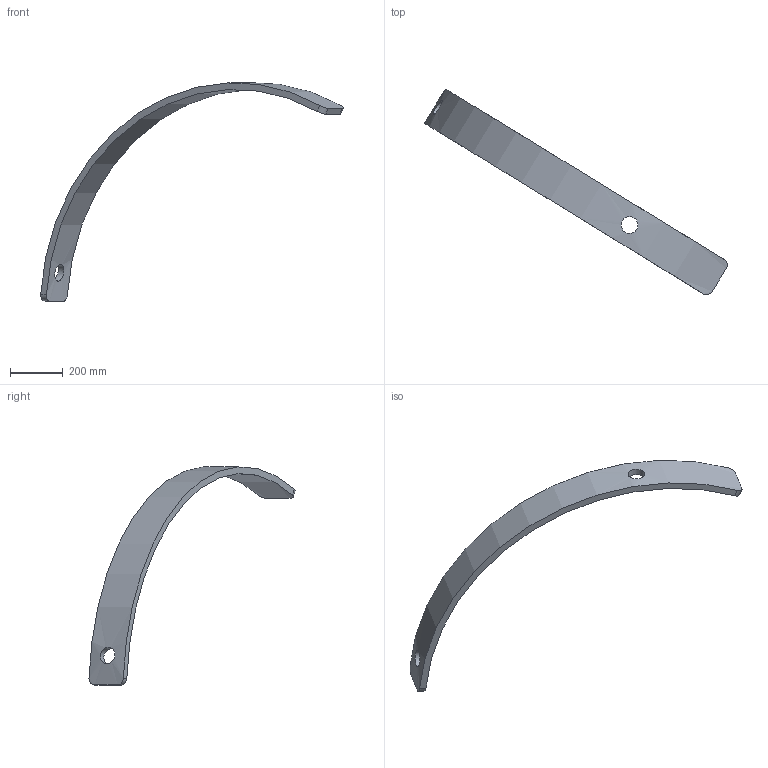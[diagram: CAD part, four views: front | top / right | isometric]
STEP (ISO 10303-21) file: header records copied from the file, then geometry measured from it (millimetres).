
FILE_DESCRIPTION (( 'STEP AP214' ), '1' );
FILE_NAME ('Section 7 AR.STEP', '2025-01-09T19:43:28', ( '' ), ( '' ), 'SwSTEP 2.0', 'SolidWorks 2024', '' );
FILE_SCHEMA (( 'AUTOMOTIVE_DESIGN' ));
Length unit declared in the file: inch
Products named in the file (1): Section 7 AR
Bounding box: 1147 x 780.81 x 828.17 mm (x, y, z)
Volume: 6445394.4 mm3; surface area: 611146.4 mm2
Topology: 1 solids, 1 shells, 12 faces, 30 edges, 20 vertices
Faces by surface type: cylinder 8, plane 4
Full cylindrical faces by diameter (mm): 63.5 x2
Entity records: 1087 total; most frequent: CARTESIAN_POINT 789, ORIENTED_EDGE 56, DIRECTION 46, EDGE_CURVE 28, VERTEX_POINT 20, EDGE_LOOP 18, AXIS2_PLACEMENT_3D 17, FACE_OUTER_BOUND 14
